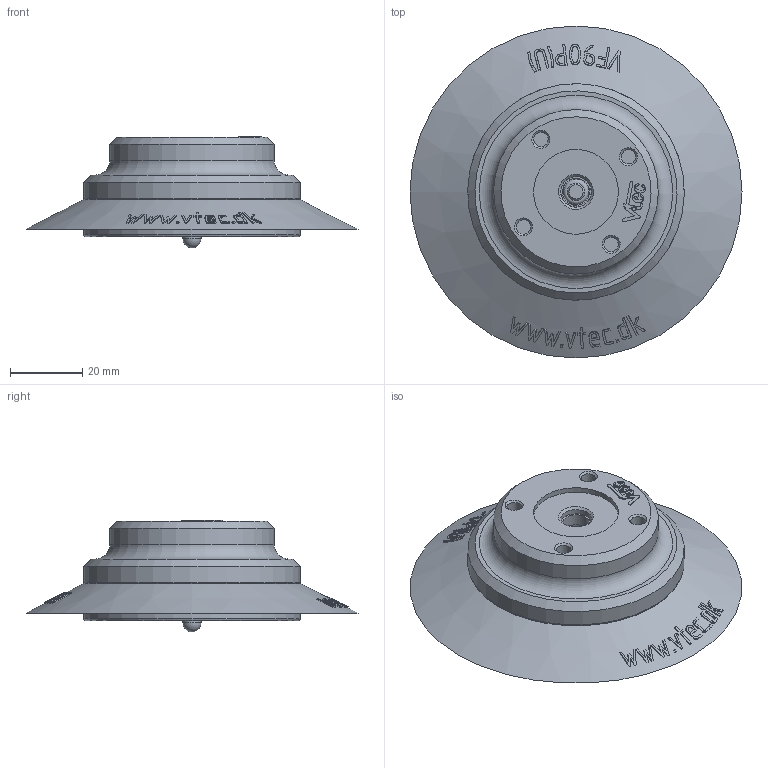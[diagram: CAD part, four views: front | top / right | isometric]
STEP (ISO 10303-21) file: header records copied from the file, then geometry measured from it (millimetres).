
FILE_DESCRIPTION( ( 'Unknown' ), '1' );
FILE_NAME( 'C:/Documents and Settings/owner/官帕 拳搁/MISUMI/PAD/VF/VF90-PU-18FA-BV.stp', 'Unknown', ( 'Unknown' ), ( 'Unknown' ), 'XStep 1.0', 'Unknown', ' ' );
FILE_SCHEMA( ( 'automotive_design' ) );
Length unit declared in the file: millimetre
Products named in the file (5): Assem1; 1_5; 2_5; VF75 BV
Bounding box: 92 x 92 x 31 mm (x, y, z)
Volume: 105001.2 mm3; surface area: 57036.2 mm2
Topology: 8 solids, 8 shells, 1308 faces, 3514 edges, 2322 vertices
Faces by surface type: plane 728, cylinder 320, bspline 128, cone 80, extrusion 40, torus 10, sphere 2
Full cylindrical faces by diameter (mm): 0.791 x2, 4 x16, 4.9 x2, 5 x2, 6.4 x8, 7.5 x2, 8.5 x2, 9 x2, 10.5 x2, 11 x2, 15 x4, 23.5 x2, 25 x2, 45.6 x2, 55 x4, 60 x2
Entity records: 31097 total; most frequent: CARTESIAN_POINT 11178, ORIENTED_EDGE 3368, DIRECTION 2943, EDGE_CURVE 1684, VERTEX_POINT 1140, AXIS2_PLACEMENT_3D 983, VECTOR 977, LINE 957
